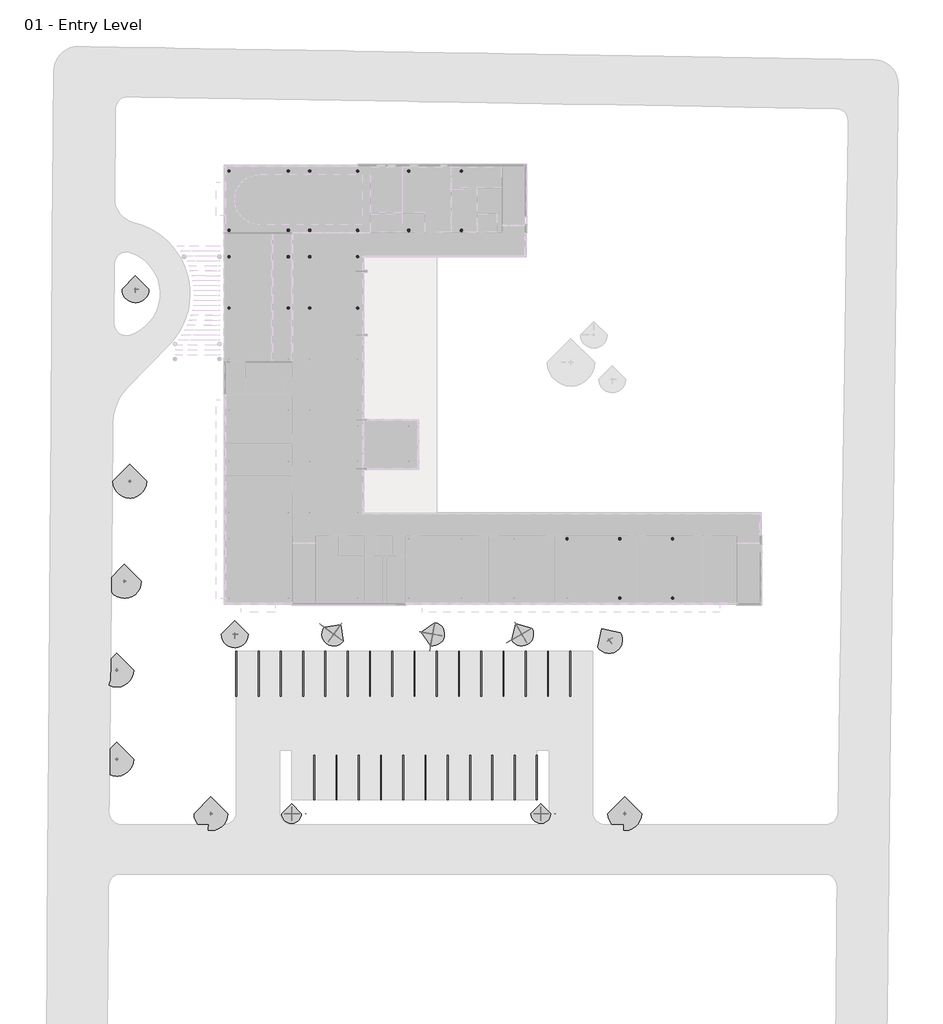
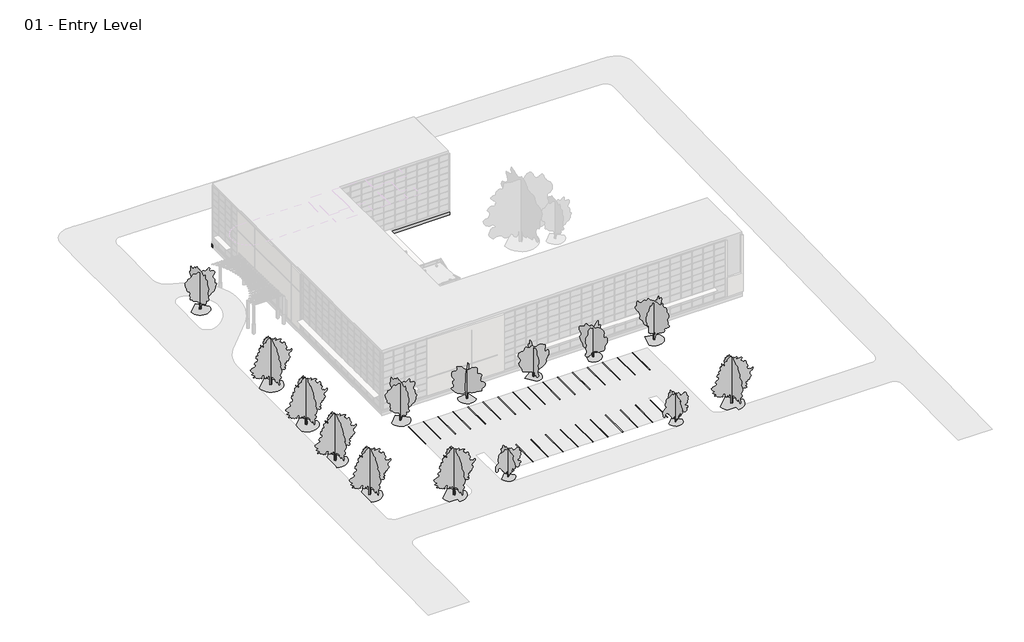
# One storey, part 34 of 35: 27 proxies, 25 columns, 15 furniture elements, 14 geographic elements, 6 beams.
"""IFC4 building model written with IfcOpenShell, lengths in millimetres."""

from ifc_helpers import new_model, si_unit, point, frame_2d, origin, origin_with_axes, place, context, project, spatial, circle_curve, trimmed, segment, composite_curve, outline, extrude, faceted_brep, transform, mapped, element, save
from components import parking_space_9_x_18_90_deg_b8b21359, furniture_f004630c, rpc_tree_deciduous_american_beech_20_b3c041c8, rpc_tree_deciduous_golden_chain_18_92130817, rpc_tree_deciduous_honey_locust_25_cc46a1f1, rpc_tree_deciduous_red_maple_30_cba750cc

model = new_model("IFC4")

# Units and contexts
model_context = context("Model", 3, world=origin())
ifc_project = project(units=[si_unit("LENGTHUNIT", "METRE", prefix="MILLI")], contexts=[model_context])

# Site, building, storey
site = spatial("IfcSite", under=ifc_project)
building = spatial("IfcBuilding", under=site)
storey = spatial("IfcBuildingStorey", under=building, Name="01 - Entry Level", Elevation=0.0)

# Beams
placement = place(None, origin())
element("IfcBeam", 1, ObjectType="Concrete-Rectangular Beam : 12 x 24", at=placement, inside=storey, context=model_context, shape_type="Brep", body=[
    faceted_brep([(66209.1957476, 11106.075, -406.4), (65904.3957476, 11106.075, -406.4), (65904.3957476, 10801.275, -406.4), (65904.3957476, 152.325, -406.4), (66209.1957476, 152.325, -406.4), (66209.1957476, 11106.075, -1016.0), (66209.1957476, 152.325, -1016.0), (65904.3957476, 11106.075, -1016.0), (65904.3957476, 152.325, -1016.0), (65904.3957476, 10801.275, -1016.0)], [[[0, 1, 2, 3, 4]], [[5, 0, 4, 6]], [[7, 5, 6, 8, 9]], [[1, 7, 9, 8, 3, 2]], [[1, 0, 5, 7]], [[4, 3, 8, 6]]]),
])
element("IfcBeam", 2, ObjectType="Concrete-Rectangular Beam : 12 x 24", at=placement, inside=storey, context=model_context, shape_type="Brep", body=[
    faceted_brep([(16983.9957476, 11106.075, -406.4), (16983.9957476, 10801.275, -406.4), (65904.3957476, 10801.275, -406.4), (65904.3957476, 11106.075, -406.4), (17288.7957476, 11106.075, -406.4), (16983.9957476, 11106.075, -1016.0), (65904.3957476, 11106.075, -1016.0), (17288.7957476, 11106.075, -1016.0), (16983.9957476, 10801.275, -1016.0), (65904.3957476, 10801.275, -1016.0)], [[[0, 1, 2, 3, 4]], [[5, 0, 4, 3, 6, 7]], [[8, 5, 7, 6, 9]], [[1, 8, 9, 2]], [[1, 0, 5, 8]], [[3, 2, 9, 6]]]),
])
element("IfcBeam", 3, ObjectType="Concrete-Rectangular Beam : 12 x 24", at=placement, inside=storey, context=model_context, shape_type="Brep", body=[
    faceted_brep([(17288.7957476, 42951.325, -406.4), (16983.9957476, 42951.325, -406.4), (16983.9957476, 22650.375, -406.4), (17288.7957476, 22650.375, -406.4), (17288.7957476, 42646.525, -406.4), (17288.7957476, 42951.325, -1016.0), (17288.7957476, 22650.375, -1016.0), (17288.7957476, 42646.525, -1016.0), (16983.9957476, 42951.325, -1016.0), (16983.9957476, 22650.375, -1016.0)], [[[0, 1, 2, 3, 4]], [[5, 0, 4, 3, 6, 7]], [[8, 5, 7, 6, 9]], [[1, 8, 9, 2]], [[1, 0, 5, 8]], [[3, 2, 9, 6]]]),
])
element("IfcBeam", 4, ObjectType="Concrete-Rectangular Beam : 12 x 24", at=placement, inside=storey, context=model_context, shape_type="Brep", body=[
    faceted_brep([(37253.1957476, 42646.525, -406.4), (37253.1957476, 42951.325, -406.4), (36948.3957476, 42951.325, -406.4), (17288.7957476, 42951.325, -406.4), (17288.7957476, 42646.525, -406.4), (37253.1957476, 42646.525, -1016.0), (17288.7957476, 42646.525, -1016.0), (37253.1957476, 42951.325, -1016.0), (17288.7957476, 42951.325, -1016.0), (36948.3957476, 42951.325, -1016.0)], [[[0, 1, 2, 3, 4]], [[5, 0, 4, 6]], [[7, 5, 6, 8, 9]], [[1, 7, 9, 8, 3, 2]], [[1, 0, 5, 7]], [[4, 3, 8, 6]]]),
])
element("IfcBeam", 5, ObjectType="Concrete-Rectangular Beam : 12 x 24", at=placement, inside=storey, context=model_context, shape_type="Brep", body=[
    faceted_brep([(37253.1957476, 53930.475, -406.4), (36948.3957476, 53930.475, -406.4), (36948.3957476, 53625.675, -406.4), (36948.3957476, 42951.325, -406.4), (37253.1957476, 42951.325, -406.4), (37253.1957476, 53930.475, -1016.0), (37253.1957476, 42951.325, -1016.0), (36948.3957476, 53930.475, -1016.0), (36948.3957476, 42951.325, -1016.0), (36948.3957476, 53625.675, -1016.0)], [[[0, 1, 2, 3, 4]], [[5, 0, 4, 6]], [[7, 5, 6, 8, 9]], [[1, 7, 9, 8, 3, 2]], [[1, 0, 5, 7]], [[4, 3, 8, 6]]]),
])
element("IfcBeam", 6, ObjectType="Concrete-Rectangular Beam : 12 x 24", at=placement, inside=storey, context=model_context, shape_type="Brep", body=[
    faceted_brep([(73.9457476, 53930.475, -406.4), (73.9457476, 53625.675, -406.4), (378.7457476, 53625.675, -406.4), (36948.3957476, 53625.675, -406.4), (36948.3957476, 53930.475, -406.4), (73.9457476, 53930.475, -1016.0), (36948.3957476, 53930.475, -1016.0), (73.9457476, 53625.675, -1016.0), (36948.3957476, 53625.675, -1016.0), (378.7457476, 53625.675, -1016.0)], [[[0, 1, 2, 3, 4]], [[5, 0, 4, 6]], [[7, 5, 6, 8, 9]], [[1, 7, 9, 8, 3, 2]], [[1, 0, 5, 7]], [[4, 3, 8, 6]]]),
])

# Proxies
parking_space_9_x_18_90_deg_shape = parking_space_9_x_18_90_deg_b8b21359(model_context)
element("IfcBuildingElementProxy", 7, Name="Parking Space : 9' x 18' - 90 deg", ObjectType="Parking Space : 9' x 18' - 90 deg", at=placement, inside=storey, context=model_context, shape_type="MappedRepresentation", body=[
    mapped(parking_space_9_x_18_90_deg_shape, transform((42697.9170451, -5971.3090298, -173.2887691), x_axis=(1.0, 0.0, 0.0), y_axis=(0.0, 1.0, 0.0), z_axis=(0.0, 0.0, 1.0))),
])
element("IfcBuildingElementProxy", 8, Name="Parking Space : 9' x 18' - 90 deg", ObjectType="Parking Space : 9' x 18' - 90 deg", at=placement, inside=storey, context=model_context, shape_type="MappedRepresentation", body=[
    mapped(parking_space_9_x_18_90_deg_shape, transform((11151.5207476, -24259.3090298, -130.2766543), x_axis=(-1.0, 0.0, 0.0), y_axis=(0.0, -1.0, 0.0), z_axis=(0.0, 0.0, 1.0))),
])
element("IfcBuildingElementProxy", 9, Name="Parking Space : 9' x 18' - 90 deg", ObjectType="Parking Space : 9' x 18' - 90 deg", at=placement, inside=storey, context=model_context, shape_type="MappedRepresentation", body=[
    mapped(parking_space_9_x_18_90_deg_shape, transform((39954.7170451, -5971.3090298, -169.325493), x_axis=(1.0, 0.0, 0.0), y_axis=(0.0, 1.0, 0.0), z_axis=(0.0, 0.0, 1.0))),
])
element("IfcBuildingElementProxy", 10, Name="Parking Space : 9' x 18' - 90 deg", ObjectType="Parking Space : 9' x 18' - 90 deg", at=placement, inside=storey, context=model_context, shape_type="MappedRepresentation", body=[
    mapped(parking_space_9_x_18_90_deg_shape, transform((37211.5170451, -5971.3090298, -165.1287215), x_axis=(1.0, 0.0, 0.0), y_axis=(0.0, 1.0, 0.0), z_axis=(0.0, 0.0, 1.0))),
])
element("IfcBuildingElementProxy", 11, Name="Parking Space : 9' x 18' - 90 deg", ObjectType="Parking Space : 9' x 18' - 90 deg", at=placement, inside=storey, context=model_context, shape_type="MappedRepresentation", body=[
    mapped(parking_space_9_x_18_90_deg_shape, transform((34468.3170451, -5971.3090298, -160.9319002), x_axis=(1.0, 0.0, 0.0), y_axis=(0.0, 1.0, 0.0), z_axis=(0.0, 0.0, 1.0))),
])
element("IfcBuildingElementProxy", 12, Name="Parking Space : 9' x 18' - 90 deg", ObjectType="Parking Space : 9' x 18' - 90 deg", at=placement, inside=storey, context=model_context, shape_type="MappedRepresentation", body=[
    mapped(parking_space_9_x_18_90_deg_shape, transform((31725.1170451, -5971.3090298, -156.7350789), x_axis=(1.0, 0.0, 0.0), y_axis=(0.0, 1.0, 0.0), z_axis=(0.0, 0.0, 1.0))),
])
element("IfcBuildingElementProxy", 13, Name="Parking Space : 9' x 18' - 90 deg", ObjectType="Parking Space : 9' x 18' - 90 deg", at=placement, inside=storey, context=model_context, shape_type="MappedRepresentation", body=[
    mapped(parking_space_9_x_18_90_deg_shape, transform((28981.9170451, -5971.3090298, -152.5382576), x_axis=(1.0, 0.0, 0.0), y_axis=(0.0, 1.0, 0.0), z_axis=(0.0, 0.0, 1.0))),
])
element("IfcBuildingElementProxy", 14, Name="Parking Space : 9' x 18' - 90 deg", ObjectType="Parking Space : 9' x 18' - 90 deg", at=placement, inside=storey, context=model_context, shape_type="MappedRepresentation", body=[
    mapped(parking_space_9_x_18_90_deg_shape, transform((26238.7170451, -5971.3090298, -148.3414362), x_axis=(1.0, 0.0, 0.0), y_axis=(0.0, 1.0, 0.0), z_axis=(0.0, 0.0, 1.0))),
])
element("IfcBuildingElementProxy", 15, Name="Parking Space : 9' x 18' - 90 deg", ObjectType="Parking Space : 9' x 18' - 90 deg", at=placement, inside=storey, context=model_context, shape_type="MappedRepresentation", body=[
    mapped(parking_space_9_x_18_90_deg_shape, transform((23495.5170451, -5971.3090298, -144.1446149), x_axis=(1.0, 0.0, 0.0), y_axis=(0.0, 1.0, 0.0), z_axis=(0.0, 0.0, 1.0))),
])
element("IfcBuildingElementProxy", 16, Name="Parking Space : 9' x 18' - 90 deg", ObjectType="Parking Space : 9' x 18' - 90 deg", at=placement, inside=storey, context=model_context, shape_type="MappedRepresentation", body=[
    mapped(parking_space_9_x_18_90_deg_shape, transform((20752.3170451, -5971.3090298, -139.9477936), x_axis=(1.0, 0.0, 0.0), y_axis=(0.0, 1.0, 0.0), z_axis=(0.0, 0.0, 1.0))),
])
element("IfcBuildingElementProxy", 17, Name="Parking Space : 9' x 18' - 90 deg", ObjectType="Parking Space : 9' x 18' - 90 deg", at=placement, inside=storey, context=model_context, shape_type="MappedRepresentation", body=[
    mapped(parking_space_9_x_18_90_deg_shape, transform((18009.1170451, -5971.3090298, -135.7509349), x_axis=(1.0, 0.0, 0.0), y_axis=(0.0, 1.0, 0.0), z_axis=(0.0, 0.0, 1.0))),
])
element("IfcBuildingElementProxy", 18, Name="Parking Space : 9' x 18' - 90 deg", ObjectType="Parking Space : 9' x 18' - 90 deg", at=placement, inside=storey, context=model_context, shape_type="MappedRepresentation", body=[
    mapped(parking_space_9_x_18_90_deg_shape, transform((15265.9170451, -5971.3090298, -131.5520962), x_axis=(1.0, 0.0, 0.0), y_axis=(0.0, 1.0, 0.0), z_axis=(0.0, 0.0, 1.0))),
])
element("IfcBuildingElementProxy", 19, Name="Parking Space : 9' x 18' - 90 deg", ObjectType="Parking Space : 9' x 18' - 90 deg", at=placement, inside=storey, context=model_context, shape_type="MappedRepresentation", body=[
    mapped(parking_space_9_x_18_90_deg_shape, transform((12522.7170451, -5971.3090298, -127.333322), x_axis=(1.0, 0.0, 0.0), y_axis=(0.0, 1.0, 0.0), z_axis=(0.0, 0.0, 1.0))),
])
element("IfcBuildingElementProxy", 20, Name="Parking Space : 9' x 18' - 90 deg", ObjectType="Parking Space : 9' x 18' - 90 deg", at=placement, inside=storey, context=model_context, shape_type="MappedRepresentation", body=[
    mapped(parking_space_9_x_18_90_deg_shape, transform((9779.5170451, -5971.3090298, -123.1145478), x_axis=(1.0, 0.0, 0.0), y_axis=(0.0, 1.0, 0.0), z_axis=(0.0, 0.0, 1.0))),
])
element("IfcBuildingElementProxy", 21, Name="Parking Space : 9' x 18' - 90 deg", ObjectType="Parking Space : 9' x 18' - 90 deg", at=placement, inside=storey, context=model_context, shape_type="MappedRepresentation", body=[
    mapped(parking_space_9_x_18_90_deg_shape, transform((7036.3170451, -5971.3090298, -118.9197844), x_axis=(1.0, 0.0, 0.0), y_axis=(0.0, 1.0, 0.0), z_axis=(0.0, 0.0, 1.0))),
])
element("IfcBuildingElementProxy", 22, Name="Parking Space : 9' x 18' - 90 deg", ObjectType="Parking Space : 9' x 18' - 90 deg", at=placement, inside=storey, context=model_context, shape_type="MappedRepresentation", body=[
    mapped(parking_space_9_x_18_90_deg_shape, transform((4293.1170451, -5971.3090298, -114.744916), x_axis=(1.0, 0.0, 0.0), y_axis=(0.0, 1.0, 0.0), z_axis=(0.0, 0.0, 1.0))),
])
element("IfcBuildingElementProxy", 23, Name="Parking Space : 9' x 18' - 90 deg", ObjectType="Parking Space : 9' x 18' - 90 deg", at=placement, inside=storey, context=model_context, shape_type="MappedRepresentation", body=[
    mapped(parking_space_9_x_18_90_deg_shape, transform((1549.9170451, -5971.3090298, -110.5700444), x_axis=(1.0, 0.0, 0.0), y_axis=(0.0, 1.0, 0.0), z_axis=(0.0, 0.0, 1.0))),
])
element("IfcBuildingElementProxy", 24, Name="Parking Space : 9' x 18' - 90 deg", ObjectType="Parking Space : 9' x 18' - 90 deg", at=placement, inside=storey, context=model_context, shape_type="MappedRepresentation", body=[
    mapped(parking_space_9_x_18_90_deg_shape, transform((13894.7207476, -24259.3090298, -134.4295698), x_axis=(-1.0, 0.0, 0.0), y_axis=(0.0, -1.0, 0.0), z_axis=(0.0, 0.0, 1.0))),
])
element("IfcBuildingElementProxy", 25, Name="Parking Space : 9' x 18' - 90 deg", ObjectType="Parking Space : 9' x 18' - 90 deg", at=placement, inside=storey, context=model_context, shape_type="MappedRepresentation", body=[
    mapped(parking_space_9_x_18_90_deg_shape, transform((16637.9207476, -24259.3090298, -138.5824852), x_axis=(-1.0, 0.0, 0.0), y_axis=(0.0, -1.0, 0.0), z_axis=(0.0, 0.0, 1.0))),
])
element("IfcBuildingElementProxy", 26, Name="Parking Space : 9' x 18' - 90 deg", ObjectType="Parking Space : 9' x 18' - 90 deg", at=placement, inside=storey, context=model_context, shape_type="MappedRepresentation", body=[
    mapped(parking_space_9_x_18_90_deg_shape, transform((19381.1207476, -24259.3090298, -142.7354006), x_axis=(-1.0, 0.0, 0.0), y_axis=(0.0, -1.0, 0.0), z_axis=(0.0, 0.0, 1.0))),
])
element("IfcBuildingElementProxy", 27, Name="Parking Space : 9' x 18' - 90 deg", ObjectType="Parking Space : 9' x 18' - 90 deg", at=placement, inside=storey, context=model_context, shape_type="MappedRepresentation", body=[
    mapped(parking_space_9_x_18_90_deg_shape, transform((22124.3207476, -24259.3090298, -146.8885369), x_axis=(-1.0, 0.0, 0.0), y_axis=(0.0, -1.0, 0.0), z_axis=(0.0, 0.0, 1.0))),
])
element("IfcBuildingElementProxy", 28, Name="Parking Space : 9' x 18' - 90 deg", ObjectType="Parking Space : 9' x 18' - 90 deg", at=placement, inside=storey, context=model_context, shape_type="MappedRepresentation", body=[
    mapped(parking_space_9_x_18_90_deg_shape, transform((24867.5207476, -24259.3090298, -151.0419482), x_axis=(-1.0, 0.0, 0.0), y_axis=(0.0, -1.0, 0.0), z_axis=(0.0, 0.0, 1.0))),
])
element("IfcBuildingElementProxy", 29, Name="Parking Space : 9' x 18' - 90 deg", ObjectType="Parking Space : 9' x 18' - 90 deg", at=placement, inside=storey, context=model_context, shape_type="MappedRepresentation", body=[
    mapped(parking_space_9_x_18_90_deg_shape, transform((27610.7207476, -24259.3090298, -155.1948637), x_axis=(-1.0, 0.0, 0.0), y_axis=(0.0, -1.0, 0.0), z_axis=(0.0, 0.0, 1.0))),
])
element("IfcBuildingElementProxy", 30, Name="Parking Space : 9' x 18' - 90 deg", ObjectType="Parking Space : 9' x 18' - 90 deg", at=placement, inside=storey, context=model_context, shape_type="MappedRepresentation", body=[
    mapped(parking_space_9_x_18_90_deg_shape, transform((30353.9207476, -24259.3090298, -159.3477791), x_axis=(-1.0, 0.0, 0.0), y_axis=(0.0, -1.0, 0.0), z_axis=(0.0, 0.0, 1.0))),
])
element("IfcBuildingElementProxy", 31, Name="Parking Space : 9' x 18' - 90 deg", ObjectType="Parking Space : 9' x 18' - 90 deg", at=placement, inside=storey, context=model_context, shape_type="MappedRepresentation", body=[
    mapped(parking_space_9_x_18_90_deg_shape, transform((33097.1207476, -24259.3090298, -163.497309), x_axis=(-1.0, 0.0, 0.0), y_axis=(0.0, -1.0, 0.0), z_axis=(0.0, 0.0, 1.0))),
])
element("IfcBuildingElementProxy", 32, Name="Parking Space : 9' x 18' - 90 deg", ObjectType="Parking Space : 9' x 18' - 90 deg", at=placement, inside=storey, context=model_context, shape_type="MappedRepresentation", body=[
    mapped(parking_space_9_x_18_90_deg_shape, transform((35840.3207476, -24259.3090298, -167.65361), x_axis=(-1.0, 0.0, 0.0), y_axis=(0.0, -1.0, 0.0), z_axis=(0.0, 0.0, 1.0))),
])
element("IfcBuildingElementProxy", 33, Name="Parking Space : 9' x 18' - 90 deg", ObjectType="Parking Space : 9' x 18' - 90 deg", at=placement, inside=storey, context=model_context, shape_type="MappedRepresentation", body=[
    mapped(parking_space_9_x_18_90_deg_shape, transform((38583.5207476, -24259.3090298, -171.8065254), x_axis=(-1.0, 0.0, 0.0), y_axis=(0.0, -1.0, 0.0), z_axis=(0.0, 0.0, 1.0))),
])

# Columns
element("IfcColumn", 34, ObjectType="Concrete-Round-Column : 12\"", at=placement, inside=storey, context=model_context, shape_type="SweptSolid", body=[
    extrude(outline(composite_curve([segment(trimmed(circle_curve(frame_2d((635.9207476, 53228.8)), 152.4), [point((788.3207476, 53228.8))], [point((483.5207476, 53228.8))], False, "CARTESIAN"), True, "CONTINUOUS"), segment(trimmed(circle_curve(frame_2d((635.9207476, 53228.8)), 152.4), [point((483.5207476, 53228.8))], [point((788.3207476, 53228.8))], False, "CARTESIAN"), True, "CONTINUOUS")], self_intersect=False)), origin_with_axes(), (0.0, 0.0, 1.0), 3403.6),
])
element("IfcColumn", 35, ObjectType="Concrete-Round-Column : 12\"", at=placement, inside=storey, context=model_context, shape_type="SweptSolid", body=[
    extrude(outline(composite_curve([segment(trimmed(circle_curve(frame_2d((635.9207476, 45913.6)), 152.4), [point((788.3207476, 45913.6))], [point((483.5207476, 45913.6))], False, "CARTESIAN"), True, "CONTINUOUS"), segment(trimmed(circle_curve(frame_2d((635.9207476, 45913.6)), 152.4), [point((483.5207476, 45913.6))], [point((788.3207476, 45913.6))], False, "CARTESIAN"), True, "CONTINUOUS")], self_intersect=False)), origin_with_axes(), (0.0, 0.0, 1.0), 3403.6),
])
element("IfcColumn", 36, ObjectType="Concrete-Round-Column : 12\"", at=placement, inside=storey, context=model_context, shape_type="SweptSolid", body=[
    extrude(outline(composite_curve([segment(trimmed(circle_curve(frame_2d((635.9207476, 42662.4)), 152.4), [point((788.3207476, 42662.4))], [point((483.5207476, 42662.4))], False, "CARTESIAN"), True, "CONTINUOUS"), segment(trimmed(circle_curve(frame_2d((635.9207476, 42662.4)), 152.4), [point((483.5207476, 42662.4))], [point((788.3207476, 42662.4))], False, "CARTESIAN"), True, "CONTINUOUS")], self_intersect=False)), origin_with_axes(), (0.0, 0.0, 1.0), 3403.6),
])
element("IfcColumn", 37, ObjectType="Concrete-Round-Column : 12\"", at=placement, inside=storey, context=model_context, shape_type="SweptSolid", body=[
    extrude(outline(composite_curve([segment(trimmed(circle_curve(frame_2d((635.9207476, 36363.2)), 152.4), [point((788.3207476, 36363.2))], [point((483.5207476, 36363.2))], False, "CARTESIAN"), True, "CONTINUOUS"), segment(trimmed(circle_curve(frame_2d((635.9207476, 36363.2)), 152.4), [point((483.5207476, 36363.2))], [point((788.3207476, 36363.2))], False, "CARTESIAN"), True, "CONTINUOUS")], self_intersect=False)), origin_with_axes(), (0.0, 0.0, 1.0), 3403.6),
])
element("IfcColumn", 38, ObjectType="Concrete-Round-Column : 12\"", at=placement, inside=storey, context=model_context, shape_type="SweptSolid", body=[
    extrude(outline(composite_curve([segment(trimmed(circle_curve(frame_2d((10592.7207476, 53228.8)), 152.4), [point((10745.1207476, 53228.8))], [point((10440.3207476, 53228.8))], False, "CARTESIAN"), True, "CONTINUOUS"), segment(trimmed(circle_curve(frame_2d((10592.7207476, 53228.8)), 152.4), [point((10440.3207476, 53228.8))], [point((10745.1207476, 53228.8))], False, "CARTESIAN"), True, "CONTINUOUS")], self_intersect=False)), origin_with_axes(), (0.0, 0.0, 1.0), 3403.6),
])
element("IfcColumn", 39, ObjectType="Concrete-Round-Column : 12\"", at=placement, inside=storey, context=model_context, shape_type="SweptSolid", body=[
    extrude(outline(composite_curve([segment(trimmed(circle_curve(frame_2d((10592.7207476, 45913.6)), 152.4), [point((10745.1207476, 45913.6))], [point((10440.3207476, 45913.6))], False, "CARTESIAN"), True, "CONTINUOUS"), segment(trimmed(circle_curve(frame_2d((10592.7207476, 45913.6)), 152.4), [point((10440.3207476, 45913.6))], [point((10745.1207476, 45913.6))], False, "CARTESIAN"), True, "CONTINUOUS")], self_intersect=False)), origin_with_axes(), (0.0, 0.0, 1.0), 3403.6),
])
element("IfcColumn", 40, ObjectType="Concrete-Round-Column : 12\"", at=placement, inside=storey, context=model_context, shape_type="SweptSolid", body=[
    extrude(outline(composite_curve([segment(trimmed(circle_curve(frame_2d((10592.7207476, 42662.4)), 152.4), [point((10745.1207476, 42662.4))], [point((10440.3207476, 42662.4))], False, "CARTESIAN"), True, "CONTINUOUS"), segment(trimmed(circle_curve(frame_2d((10592.7207476, 42662.4)), 152.4), [point((10440.3207476, 42662.4))], [point((10745.1207476, 42662.4))], False, "CARTESIAN"), True, "CONTINUOUS")], self_intersect=False)), origin_with_axes(), (0.0, 0.0, 1.0), 3403.6),
])
element("IfcColumn", 41, ObjectType="Concrete-Round-Column : 12\"", at=placement, inside=storey, context=model_context, shape_type="SweptSolid", body=[
    extrude(outline(composite_curve([segment(trimmed(circle_curve(frame_2d((10592.7207476, 36363.2)), 152.4), [point((10745.1207476, 36363.2))], [point((10440.3207476, 36363.2))], False, "CARTESIAN"), True, "CONTINUOUS"), segment(trimmed(circle_curve(frame_2d((10592.7207476, 36363.2)), 152.4), [point((10440.3207476, 36363.2))], [point((10745.1207476, 36363.2))], False, "CARTESIAN"), True, "CONTINUOUS")], self_intersect=False)), origin_with_axes(), (0.0, 0.0, 1.0), 3403.6),
])
element("IfcColumn", 42, ObjectType="Concrete-Round-Column : 12\"", at=placement, inside=storey, context=model_context, shape_type="SweptSolid", body=[
    extrude(outline(composite_curve([segment(trimmed(circle_curve(frame_2d((16485.5207476, 53228.8)), 152.4), [point((16637.9207476, 53228.8))], [point((16333.1207476, 53228.8))], False, "CARTESIAN"), True, "CONTINUOUS"), segment(trimmed(circle_curve(frame_2d((16485.5207476, 53228.8)), 152.4), [point((16333.1207476, 53228.8))], [point((16637.9207476, 53228.8))], False, "CARTESIAN"), True, "CONTINUOUS")], self_intersect=False)), origin_with_axes(), (0.0, 0.0, 1.0), 3403.6),
])
element("IfcColumn", 43, ObjectType="Concrete-Round-Column : 12\"", at=placement, inside=storey, context=model_context, shape_type="SweptSolid", body=[
    extrude(outline(composite_curve([segment(trimmed(circle_curve(frame_2d((16485.5207476, 45913.6)), 152.4), [point((16637.9207476, 45913.6))], [point((16333.1207476, 45913.6))], False, "CARTESIAN"), True, "CONTINUOUS"), segment(trimmed(circle_curve(frame_2d((16485.5207476, 45913.6)), 152.4), [point((16333.1207476, 45913.6))], [point((16637.9207476, 45913.6))], False, "CARTESIAN"), True, "CONTINUOUS")], self_intersect=False)), origin_with_axes(), (0.0, 0.0, 1.0), 3403.6),
])
element("IfcColumn", 44, ObjectType="Concrete-Round-Column : 12\"", at=placement, inside=storey, context=model_context, shape_type="SweptSolid", body=[
    extrude(outline(composite_curve([segment(trimmed(circle_curve(frame_2d((16485.5207476, 42662.4)), 152.4), [point((16637.9207476, 42662.4))], [point((16333.1207476, 42662.4))], False, "CARTESIAN"), True, "CONTINUOUS"), segment(trimmed(circle_curve(frame_2d((16485.5207476, 42662.4)), 152.4), [point((16333.1207476, 42662.4))], [point((16637.9207476, 42662.4))], False, "CARTESIAN"), True, "CONTINUOUS")], self_intersect=False)), origin_with_axes(), (0.0, 0.0, 1.0), 3403.6),
])
element("IfcColumn", 45, ObjectType="Concrete-Round-Column : 12\"", at=placement, inside=storey, context=model_context, shape_type="SweptSolid", body=[
    extrude(outline(composite_curve([segment(trimmed(circle_curve(frame_2d((16485.5207476, 36363.2)), 152.4), [point((16637.9207476, 36363.2))], [point((16333.1207476, 36363.2))], False, "CARTESIAN"), True, "CONTINUOUS"), segment(trimmed(circle_curve(frame_2d((16485.5207476, 36363.2)), 152.4), [point((16333.1207476, 36363.2))], [point((16637.9207476, 36363.2))], False, "CARTESIAN"), True, "CONTINUOUS")], self_intersect=False)), origin_with_axes(), (0.0, 0.0, 1.0), 3403.6),
])
element("IfcColumn", 46, ObjectType="Concrete-Round-Column : 12\"", at=placement, inside=storey, context=model_context, shape_type="SweptSolid", body=[
    extrude(outline(composite_curve([segment(trimmed(circle_curve(frame_2d((22784.7207476, 53228.8)), 152.4), [point((22937.1207476, 53228.8))], [point((22632.3207476, 53228.8))], False, "CARTESIAN"), True, "CONTINUOUS"), segment(trimmed(circle_curve(frame_2d((22784.7207476, 53228.8)), 152.4), [point((22632.3207476, 53228.8))], [point((22937.1207476, 53228.8))], False, "CARTESIAN"), True, "CONTINUOUS")], self_intersect=False)), origin_with_axes(), (0.0, 0.0, 1.0), 3403.6),
])
element("IfcColumn", 47, ObjectType="Concrete-Round-Column : 12\"", at=placement, inside=storey, context=model_context, shape_type="SweptSolid", body=[
    extrude(outline(composite_curve([segment(trimmed(circle_curve(frame_2d((22784.7207476, 45913.6)), 152.4), [point((22937.1207476, 45913.6))], [point((22632.3207476, 45913.6))], False, "CARTESIAN"), True, "CONTINUOUS"), segment(trimmed(circle_curve(frame_2d((22784.7207476, 45913.6)), 152.4), [point((22632.3207476, 45913.6))], [point((22937.1207476, 45913.6))], False, "CARTESIAN"), True, "CONTINUOUS")], self_intersect=False)), origin_with_axes(), (0.0, 0.0, 1.0), 3403.6),
])
element("IfcColumn", 48, ObjectType="Concrete-Round-Column : 12\"", at=placement, inside=storey, context=model_context, shape_type="SweptSolid", body=[
    extrude(outline(composite_curve([segment(trimmed(circle_curve(frame_2d((29287.1207476, 53228.8)), 152.4), [point((29439.5207476, 53228.8))], [point((29134.7207476, 53228.8))], False, "CARTESIAN"), True, "CONTINUOUS"), segment(trimmed(circle_curve(frame_2d((29287.1207476, 53228.8)), 152.4), [point((29134.7207476, 53228.8))], [point((29439.5207476, 53228.8))], False, "CARTESIAN"), True, "CONTINUOUS")], self_intersect=False)), origin_with_axes(), (0.0, 0.0, 1.0), 3403.6),
])
element("IfcColumn", 49, ObjectType="Concrete-Round-Column : 12\"", at=placement, inside=storey, context=model_context, shape_type="SweptSolid", body=[
    extrude(outline(composite_curve([segment(trimmed(circle_curve(frame_2d((29287.1207476, 45913.6)), 152.4), [point((29439.5207476, 45913.6))], [point((29134.7207476, 45913.6))], False, "CARTESIAN"), True, "CONTINUOUS"), segment(trimmed(circle_curve(frame_2d((29287.1207476, 45913.6)), 152.4), [point((29134.7207476, 45913.6))], [point((29439.5207476, 45913.6))], False, "CARTESIAN"), True, "CONTINUOUS")], self_intersect=False)), origin_with_axes(), (0.0, 0.0, 1.0), 3403.6),
])
element("IfcColumn", 50, ObjectType="Concrete-Round-Column : 12\"", at=placement, inside=storey, context=model_context, shape_type="SweptSolid", body=[
    extrude(outline(composite_curve([segment(trimmed(circle_curve(frame_2d((42291.9207476, 7915.2)), 152.4), [point((42444.3207476, 7915.2))], [point((42139.5207476, 7915.2))], False, "CARTESIAN"), True, "CONTINUOUS"), segment(trimmed(circle_curve(frame_2d((42291.9207476, 7915.2)), 152.4), [point((42139.5207476, 7915.2))], [point((42444.3207476, 7915.2))], False, "CARTESIAN"), True, "CONTINUOUS")], self_intersect=False)), origin_with_axes(), (0.0, 0.0, 1.0), 3403.6),
])
element("IfcColumn", 51, ObjectType="Concrete-Round-Column : 12\"", at=placement, inside=storey, context=model_context, shape_type="SweptSolid", body=[
    extrude(outline(composite_curve([segment(trimmed(circle_curve(frame_2d((48794.3207476, 7915.2)), 152.4), [point((48946.7207476, 7915.2))], [point((48641.9207476, 7915.2))], False, "CARTESIAN"), True, "CONTINUOUS"), segment(trimmed(circle_curve(frame_2d((48794.3207476, 7915.2)), 152.4), [point((48641.9207476, 7915.2))], [point((48946.7207476, 7915.2))], False, "CARTESIAN"), True, "CONTINUOUS")], self_intersect=False)), origin_with_axes(), (0.0, 0.0, 1.0), 3403.6),
])
element("IfcColumn", 52, ObjectType="Concrete-Round-Column : 12\"", at=placement, inside=storey, context=model_context, shape_type="SweptSolid", body=[
    extrude(outline(composite_curve([segment(trimmed(circle_curve(frame_2d((48794.3207476, 600.0)), 152.4), [point((48946.7207476, 600.0))], [point((48641.9207476, 600.0))], False, "CARTESIAN"), True, "CONTINUOUS"), segment(trimmed(circle_curve(frame_2d((48794.3207476, 600.0)), 152.4), [point((48641.9207476, 600.0))], [point((48946.7207476, 600.0))], False, "CARTESIAN"), True, "CONTINUOUS")], self_intersect=False)), origin_with_axes(), (0.0, 0.0, 1.0), 3403.6),
])
element("IfcColumn", 53, ObjectType="Concrete-Round-Column : 12\"", at=placement, inside=storey, context=model_context, shape_type="SweptSolid", body=[
    extrude(outline(composite_curve([segment(trimmed(circle_curve(frame_2d((55296.7207476, 7915.2)), 152.4), [point((55449.1207476, 7915.2))], [point((55144.3207476, 7915.2))], False, "CARTESIAN"), True, "CONTINUOUS"), segment(trimmed(circle_curve(frame_2d((55296.7207476, 7915.2)), 152.4), [point((55144.3207476, 7915.2))], [point((55449.1207476, 7915.2))], False, "CARTESIAN"), True, "CONTINUOUS")], self_intersect=False)), origin_with_axes(), (0.0, 0.0, 1.0), 3403.6),
])
element("IfcColumn", 54, ObjectType="Concrete-Round-Column : 12\"", at=placement, inside=storey, context=model_context, shape_type="SweptSolid", body=[
    extrude(outline(composite_curve([segment(trimmed(circle_curve(frame_2d((55296.7207476, 600.0)), 152.4), [point((55449.1207476, 600.0))], [point((55144.3207476, 600.0))], False, "CARTESIAN"), True, "CONTINUOUS"), segment(trimmed(circle_curve(frame_2d((55296.7207476, 600.0)), 152.4), [point((55144.3207476, 600.0))], [point((55449.1207476, 600.0))], False, "CARTESIAN"), True, "CONTINUOUS")], self_intersect=False)), origin_with_axes(), (0.0, 0.0, 1.0), 3403.6),
])
element("IfcColumn", 55, ObjectType="Concrete-Round-Column : 12\"", at=placement, inside=storey, context=model_context, shape_type="SweptSolid", body=[
    extrude(outline(composite_curve([segment(trimmed(circle_curve(frame_2d((7951.1207476, 53228.8)), 152.4), [point((8103.5207476, 53228.8))], [point((7798.7207476, 53228.8))], False, "CARTESIAN"), True, "CONTINUOUS"), segment(trimmed(circle_curve(frame_2d((7951.1207476, 53228.8)), 152.4), [point((7798.7207476, 53228.8))], [point((8103.5207476, 53228.8))], False, "CARTESIAN"), True, "CONTINUOUS")], self_intersect=False)), origin_with_axes(), (0.0, 0.0, 1.0), 3403.6),
])
element("IfcColumn", 56, ObjectType="Concrete-Round-Column : 12\"", at=placement, inside=storey, context=model_context, shape_type="SweptSolid", body=[
    extrude(outline(composite_curve([segment(trimmed(circle_curve(frame_2d((7951.1207476, 45913.6)), 152.4), [point((8103.5207476, 45913.6))], [point((7798.7207476, 45913.6))], False, "CARTESIAN"), True, "CONTINUOUS"), segment(trimmed(circle_curve(frame_2d((7951.1207476, 45913.6)), 152.4), [point((7798.7207476, 45913.6))], [point((8103.5207476, 45913.6))], False, "CARTESIAN"), True, "CONTINUOUS")], self_intersect=False)), origin_with_axes(), (0.0, 0.0, 1.0), 3403.6),
])
element("IfcColumn", 57, ObjectType="Concrete-Round-Column : 12\"", at=placement, inside=storey, context=model_context, shape_type="SweptSolid", body=[
    extrude(outline(composite_curve([segment(trimmed(circle_curve(frame_2d((7951.1207476, 42662.4)), 152.4), [point((8103.5207476, 42662.4))], [point((7798.7207476, 42662.4))], False, "CARTESIAN"), True, "CONTINUOUS"), segment(trimmed(circle_curve(frame_2d((7951.1207476, 42662.4)), 152.4), [point((7798.7207476, 42662.4))], [point((8103.5207476, 42662.4))], False, "CARTESIAN"), True, "CONTINUOUS")], self_intersect=False)), origin_with_axes(), (0.0, 0.0, 1.0), 3403.6),
])
element("IfcColumn", 58, ObjectType="Concrete-Round-Column : 12\"", at=placement, inside=storey, context=model_context, shape_type="SweptSolid", body=[
    extrude(outline(composite_curve([segment(trimmed(circle_curve(frame_2d((7951.1207476, 36363.2)), 152.4), [point((8103.5207476, 36363.2))], [point((7798.7207476, 36363.2))], False, "CARTESIAN"), True, "CONTINUOUS"), segment(trimmed(circle_curve(frame_2d((7951.1207476, 36363.2)), 152.4), [point((7798.7207476, 36363.2))], [point((8103.5207476, 36363.2))], False, "CARTESIAN"), True, "CONTINUOUS")], self_intersect=False)), origin_with_axes(), (0.0, 0.0, 1.0), 3403.6),
])

# Furniture
furniture_shape = furniture_f004630c(model_context)
element("IfcFurniture", 59, ObjectType="Table-Dining Round w Chairs : 36\" Diameter", at=placement, inside=storey, context=model_context, shape_type="MappedRepresentation", body=[
    mapped(furniture_shape, transform((2221.3387804, 52334.1786885, 0.0), x_axis=(1.0, 0.0, 0.0), y_axis=(0.0, 1.0, 0.0), z_axis=(0.0, 0.0, 1.0))),
])
element("IfcFurniture", 60, ObjectType="Table-Dining Round w Chairs : 36\" Diameter", at=placement, inside=storey, context=model_context, shape_type="MappedRepresentation", body=[
    mapped(furniture_shape, transform((2221.3387804, 50048.1786885, 0.0), x_axis=(1.0, 0.0, 0.0), y_axis=(0.0, 1.0, 0.0), z_axis=(0.0, 0.0, 1.0))),
])
element("IfcFurniture", 61, ObjectType="Table-Dining Round w Chairs : 36\" Diameter", at=placement, inside=storey, context=model_context, shape_type="MappedRepresentation", body=[
    mapped(furniture_shape, transform((2221.3387804, 47470.0786885, 0.0), x_axis=(1.0, 0.0, 0.0), y_axis=(0.0, 1.0, 0.0), z_axis=(0.0, 0.0, 1.0))),
])
element("IfcFurniture", 62, ObjectType="Table-Dining Round w Chairs : 36\" Diameter", at=placement, inside=storey, context=model_context, shape_type="MappedRepresentation", body=[
    mapped(furniture_shape, transform((4354.9387804, 52334.1786885, 0.0), x_axis=(1.0, 0.0, 0.0), y_axis=(0.0, 1.0, 0.0), z_axis=(0.0, 0.0, 1.0))),
])
element("IfcFurniture", 63, ObjectType="Table-Dining Round w Chairs : 36\" Diameter", at=placement, inside=storey, context=model_context, shape_type="MappedRepresentation", body=[
    mapped(furniture_shape, transform((4354.9387804, 50048.1786885, 0.0), x_axis=(1.0, 0.0, 0.0), y_axis=(0.0, 1.0, 0.0), z_axis=(0.0, 0.0, 1.0))),
])
element("IfcFurniture", 64, ObjectType="Table-Dining Round w Chairs : 36\" Diameter", at=placement, inside=storey, context=model_context, shape_type="MappedRepresentation", body=[
    mapped(furniture_shape, transform((4354.9387804, 47470.0786885, 0.0), x_axis=(1.0, 0.0, 0.0), y_axis=(0.0, 1.0, 0.0), z_axis=(0.0, 0.0, 1.0))),
])
element("IfcFurniture", 65, ObjectType="Table-Dining Round w Chairs : 36\" Diameter", at=placement, inside=storey, context=model_context, shape_type="MappedRepresentation", body=[
    mapped(furniture_shape, transform((6488.5387804, 52334.1786885, 0.0), x_axis=(1.0, 0.0, 0.0), y_axis=(0.0, 1.0, 0.0), z_axis=(0.0, 0.0, 1.0))),
])
element("IfcFurniture", 66, ObjectType="Table-Dining Round w Chairs : 36\" Diameter", at=placement, inside=storey, context=model_context, shape_type="MappedRepresentation", body=[
    mapped(furniture_shape, transform((6488.5387804, 50048.1786885, 0.0), x_axis=(1.0, 0.0, 0.0), y_axis=(0.0, 1.0, 0.0), z_axis=(0.0, 0.0, 1.0))),
])
element("IfcFurniture", 67, ObjectType="Table-Dining Round w Chairs : 36\" Diameter", at=placement, inside=storey, context=model_context, shape_type="MappedRepresentation", body=[
    mapped(furniture_shape, transform((6488.5387804, 47470.0786885, 0.0), x_axis=(1.0, 0.0, 0.0), y_axis=(0.0, 1.0, 0.0), z_axis=(0.0, 0.0, 1.0))),
])
element("IfcFurniture", 68, ObjectType="Table-Dining Round w Chairs : 36\" Diameter", at=placement, inside=storey, context=model_context, shape_type="MappedRepresentation", body=[
    mapped(furniture_shape, transform((8622.1387804, 52334.1786885, 0.0), x_axis=(1.0, 0.0, 0.0), y_axis=(0.0, 1.0, 0.0), z_axis=(0.0, 0.0, 1.0))),
])
element("IfcFurniture", 69, ObjectType="Table-Dining Round w Chairs : 36\" Diameter", at=placement, inside=storey, context=model_context, shape_type="MappedRepresentation", body=[
    mapped(furniture_shape, transform((8622.1387804, 50048.1786885, 0.0), x_axis=(1.0, 0.0, 0.0), y_axis=(0.0, 1.0, 0.0), z_axis=(0.0, 0.0, 1.0))),
])
element("IfcFurniture", 70, ObjectType="Table-Dining Round w Chairs : 36\" Diameter", at=placement, inside=storey, context=model_context, shape_type="MappedRepresentation", body=[
    mapped(furniture_shape, transform((10755.7387804, 52334.1786885, 0.0), x_axis=(1.0, 0.0, 0.0), y_axis=(0.0, 1.0, 0.0), z_axis=(0.0, 0.0, 1.0))),
])
element("IfcFurniture", 71, ObjectType="Table-Dining Round w Chairs : 36\" Diameter", at=placement, inside=storey, context=model_context, shape_type="MappedRepresentation", body=[
    mapped(furniture_shape, transform((10755.7387804, 50048.1786885, 0.0), x_axis=(1.0, 0.0, 0.0), y_axis=(0.0, 1.0, 0.0), z_axis=(0.0, 0.0, 1.0))),
])
element("IfcFurniture", 72, ObjectType="Table-Dining Round w Chairs : 36\" Diameter", at=placement, inside=storey, context=model_context, shape_type="MappedRepresentation", body=[
    mapped(furniture_shape, transform((12889.3387804, 52334.1786885, 0.0), x_axis=(1.0, 0.0, 0.0), y_axis=(0.0, 1.0, 0.0), z_axis=(0.0, 0.0, 1.0))),
])
element("IfcFurniture", 73, ObjectType="Table-Dining Round w Chairs : 36\" Diameter", at=placement, inside=storey, context=model_context, shape_type="MappedRepresentation", body=[
    mapped(furniture_shape, transform((12889.3387804, 50048.1786885, 0.0), x_axis=(1.0, 0.0, 0.0), y_axis=(0.0, 1.0, 0.0), z_axis=(0.0, 0.0, 1.0))),
])

# Geographic elements
rpc_tree_deciduous_american_beech_20_shape = rpc_tree_deciduous_american_beech_20_b3c041c8(model_context)
element("IfcGeographicElement", 74, ObjectType="RPC Tree - Deciduous : American Beech - 20'", at=placement, inside=storey, context=model_context, shape_type="MappedRepresentation", body=[
    mapped(rpc_tree_deciduous_american_beech_20_shape, transform((13547.2665574, -3831.7512441, -128.5447402), x_axis=(0.8090169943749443, -0.5877852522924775, 0.0), y_axis=(0.5877852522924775, 0.8090169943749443, 0.0), z_axis=(0.0, 0.0, 1.0))),
])
element("IfcGeographicElement", 75, ObjectType="RPC Tree - Deciduous : American Beech - 20'", at=placement, inside=storey, context=model_context, shape_type="MappedRepresentation", body=[
    mapped(rpc_tree_deciduous_american_beech_20_shape, transform((25739.2665574, -3831.7512441, -147.1972794), x_axis=(0.17364817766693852, 0.9848077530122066, 0.0), y_axis=(-0.9848077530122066, 0.17364817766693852, 0.0), z_axis=(0.0, 0.0, 1.0))),
])
element("IfcGeographicElement", 76, ObjectType="RPC Tree - Deciduous : American Beech - 20'", at=placement, inside=storey, context=model_context, shape_type="MappedRepresentation", body=[
    mapped(rpc_tree_deciduous_american_beech_20_shape, transform((36712.0665574, -3831.7512441, -163.9845647), x_axis=(0.8660254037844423, 0.49999999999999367, 0.0), y_axis=(-0.49999999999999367, 0.8660254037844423, 0.0), z_axis=(0.0, 0.0, 1.0))),
])
rpc_tree_deciduous_golden_chain_18_shape = rpc_tree_deciduous_golden_chain_18_92130817(model_context)
element("IfcGeographicElement", 77, ObjectType="RPC Tree - Deciduous : Golden Chain - 18'", at=placement, inside=storey, context=model_context, shape_type="MappedRepresentation", body=[
    mapped(rpc_tree_deciduous_golden_chain_18_shape, transform((8353.455526, -25938.1012853, -126.7342662), x_axis=(1.0, 0.0, 0.0), y_axis=(0.0, 1.0, 0.0), z_axis=(0.0, 0.0, 1.0))),
])
element("IfcGeographicElement", 78, ObjectType="RPC Tree - Deciduous : Golden Chain - 18'", at=placement, inside=storey, context=model_context, shape_type="MappedRepresentation", body=[
    mapped(rpc_tree_deciduous_golden_chain_18_shape, transform((39068.1497902, -25938.1012853, -173.0488525), x_axis=(1.0, 0.0, 0.0), y_axis=(0.0, 1.0, 0.0), z_axis=(0.0, 0.0, 1.0))),
])
rpc_tree_deciduous_honey_locust_25_shape = rpc_tree_deciduous_honey_locust_25_cc46a1f1(model_context)
element("IfcGeographicElement", 79, ObjectType="RPC Tree - Deciduous : Honey Locust - 25'", at=placement, inside=storey, context=model_context, shape_type="MappedRepresentation", body=[
    mapped(rpc_tree_deciduous_honey_locust_25_shape, transform((-10873.7978812, 38679.3054086, -37.4329675), x_axis=(1.0, 0.0, 0.0), y_axis=(0.0, 1.0, 0.0), z_axis=(0.0, 0.0, 1.0))),
])
element("IfcGeographicElement", 80, ObjectType="RPC Tree - Deciduous : Honey Locust - 25'", at=placement, inside=storey, context=model_context, shape_type="MappedRepresentation", body=[
    mapped(rpc_tree_deciduous_honey_locust_25_shape, transform((1355.2665574, -3831.7512441, -109.892201), x_axis=(1.0, 0.0, 0.0), y_axis=(0.0, 1.0, 0.0), z_axis=(0.0, 0.0, 1.0))),
])
element("IfcGeographicElement", 81, ObjectType="RPC Tree - Deciduous : Honey Locust - 25'", at=placement, inside=storey, context=model_context, shape_type="MappedRepresentation", body=[
    mapped(rpc_tree_deciduous_honey_locust_25_shape, transform((47472.8465525, -4542.1126932, -180.4590094), x_axis=(0.8386705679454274, 0.5446390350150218, 0.0), y_axis=(-0.5446390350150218, 0.8386705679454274, 0.0), z_axis=(0.0, 0.0, 1.0))),
])
rpc_tree_deciduous_red_maple_30_shape = rpc_tree_deciduous_red_maple_30_cba750cc(model_context)
element("IfcGeographicElement", 82, ObjectType="RPC Tree - Deciduous : Red Maple - 30'", at=placement, inside=storey, context=model_context, shape_type="MappedRepresentation", body=[
    mapped(rpc_tree_deciduous_red_maple_30_shape, transform((-1573.2426608, -25938.1012853, -111.9746856), x_axis=(1.0, 0.0, 0.0), y_axis=(0.0, 1.0, 0.0), z_axis=(0.0, 0.0, 1.0))),
])
element("IfcGeographicElement", 83, ObjectType="RPC Tree - Deciduous : Red Maple - 30'", at=placement, inside=storey, context=model_context, shape_type="MappedRepresentation", body=[
    mapped(rpc_tree_deciduous_red_maple_30_shape, transform((49411.0310419, -25938.1012853, -188.7068838), x_axis=(1.0, 0.0, 0.0), y_axis=(0.0, 1.0, 0.0), z_axis=(0.0, 0.0, 1.0))),
])
element("IfcGeographicElement", 84, ObjectType="RPC Tree - Deciduous : Red Maple - 30'", at=placement, inside=storey, context=model_context, shape_type="MappedRepresentation", body=[
    mapped(rpc_tree_deciduous_red_maple_30_shape, transform((-13187.682556, -19232.5012853, -95.0243572), x_axis=(1.0, 0.0, 0.0), y_axis=(0.0, 1.0, 0.0), z_axis=(0.0, 0.0, 1.0))),
])
element("IfcGeographicElement", 85, ObjectType="RPC Tree - Deciduous : Red Maple - 30'", at=placement, inside=storey, context=model_context, shape_type="MappedRepresentation", body=[
    mapped(rpc_tree_deciduous_red_maple_30_shape, transform((-13187.682556, -8259.7012853, -90.0444977), x_axis=(1.0, 0.0, 0.0), y_axis=(0.0, 1.0, 0.0), z_axis=(0.0, 0.0, 1.0))),
])
element("IfcGeographicElement", 86, ObjectType="RPC Tree - Deciduous : Red Maple - 30'", at=placement, inside=storey, context=model_context, shape_type="MappedRepresentation", body=[
    mapped(rpc_tree_deciduous_red_maple_30_shape, transform((-12231.340022, 2671.3438979, -85.5790206), x_axis=(1.0, 0.0, 0.0), y_axis=(0.0, 1.0, 0.0), z_axis=(0.0, 0.0, 1.0))),
])
element("IfcGeographicElement", 87, ObjectType="RPC Tree - Deciduous : Red Maple - 30'", at=placement, inside=storey, context=model_context, shape_type="MappedRepresentation", body=[
    mapped(rpc_tree_deciduous_red_maple_30_shape, transform((-11585.2840437, 14998.8263268, -74.9245161), x_axis=(1.0, 0.0, 0.0), y_axis=(0.0, 1.0, 0.0), z_axis=(0.0, 0.0, 1.0))),
])

save(model, "model.ifc")
